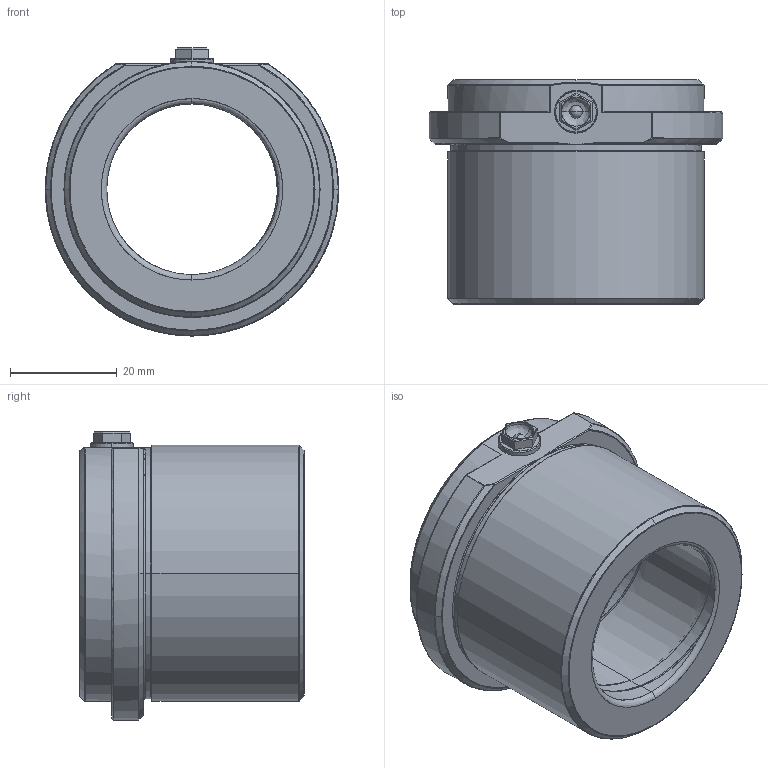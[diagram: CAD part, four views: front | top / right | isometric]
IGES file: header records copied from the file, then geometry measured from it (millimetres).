
Start section: SolidWorks IGES file using analytic representation for surfaces
Global section: file name: C:\Documents and Settings\kalite-mail\Desktop\D25 KISA(MODEL)\KISA ÝGS\D25_32X42.IGS; native system: SolidWorks 2008; preprocessor: SolidWorks 2008; author: kalite-mail; date: 080716.102928; units: millimetre
Bounding box: 55 x 42 x 54 mm (x, y, z)
Surface area: 13879.9 mm2 (no closed solid volume)
Topology: 0 solids, 0 shells, 109 faces, 1969 edges, 1957 vertices
Faces by surface type: revolution 57, bspline 52
